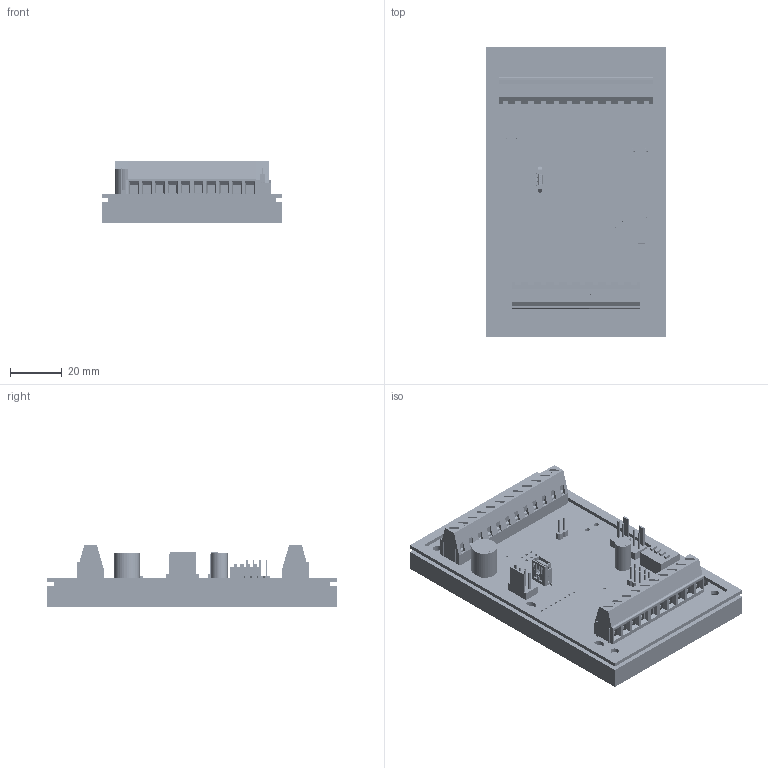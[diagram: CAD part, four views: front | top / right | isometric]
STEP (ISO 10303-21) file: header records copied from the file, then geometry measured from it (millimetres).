
FILE_DESCRIPTION(('Open CASCADE Model'),'2;1');
FILE_NAME('Open CASCADE Shape Model','2021-11-08T18:02:42',('Author'),( 'Open CASCADE'),'Open CASCADE STEP processor 6.8','Open CASCADE 6.8' ,'Unknown');
FILE_SCHEMA(('AUTOMOTIVE_DESIGN { 1 0 10303 214 1 1 1 1 }'));
Length unit declared in the file: millimetre
Products named in the file (287): PCB; Board; Open CASCADE STEP translator 6.8 1.1.1; RS485; 691212710003; 6912127100xx_MASS; 6912127100xx_VIS; 6912127100xx_PIN; R51; 6432454704; Extruded; 5591329632; R50; 6432454064; 6432453744; R49; R48; 6414183824; 6412660992; Q4; PowerPAK_SO-8_(S); Q3; User_Library-SOIC8_JEDEC_MS-012AA; D15; DO214AC_SMA; R10; C9; 5591328992; U2; Q2; Q1; X1; 6432446704; 6432446384; U10; U9; U8; 21-0056C_20_MXM-L; U7; U6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
Assembly tree (668 placements, depth 4):
  PCB
    Board
      Open CASCADE STEP translator 6.8 1.1.1
    RS485
      691212710003
        6912127100xx_MASS  x3
        6912127100xx_VIS  x3
        6912127100xx_PIN  x3
        691212710003
    R51
      6432454704
        Extruded
      5591329632  x2
        Extruded
    R50
      6432454064
        Extruded
      6432453744  x2
        Extruded
    R49
      6432454704
        Extruded
      5591329632  x2
        Extruded
    R48
      6414183824  x2
        Extruded
      6412660992
        Extruded
    Q4
      PowerPAK_SO-8_(S)
    Q3
      User_Library-SOIC8_JEDEC_MS-012AA
    D15
      DO214AC_SMA
    R10
      5591329632  x2
        Extruded
      6432454704
        Extruded
    C9
      5591328992
        Extruded
      5591329632  x2
        Extruded
    U2
      User_Library-SOIC8_JEDEC_MS-012AA
    Q2
      User_Library-SOIC8_JEDEC_MS-012AA
    Q1
      User_Library-SOIC8_JEDEC_MS-012AA
    X1
      6432446704
        Extruded
      6432446384
        Extruded
    U10
      User_Library-SOIC8_JEDEC_MS-012AA
    U9
      User_Library-SOIC8_JEDEC_MS-012AA
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Bounding box: 69.8 x 112.5 x 24.07 mm (x, y, z)
Volume: 65134 mm3; surface area: 74018.7 mm2
Topology: 578 solids, 578 shells, 11146 faces, 28657 edges, 18771 vertices
Faces by surface type: plane 8149, cylinder 2030, bspline 907, sphere 50, cone 6, torus 4
Full cylindrical faces by diameter (mm): 0.269 x2, 0.6 x5, 0.711 x6, 0.8 x21, 0.9 x12, 1 x24, 1.4 x22, 2 x4, 2.4 x66, 3.3 x4, 3.8 x44, 4 x1, 4.5 x3, 5 x1, 6.35 x1, 8 x1, 10 x1
Entity records: 171604 total; most frequent: CARTESIAN_POINT 38057, ORIENTED_EDGE 22394, DIRECTION 21172, EDGE_CURVE 11197, LINE 8462, VECTOR 8462, VERTEX_POINT 7376, AXIS2_PLACEMENT_3D 6355
